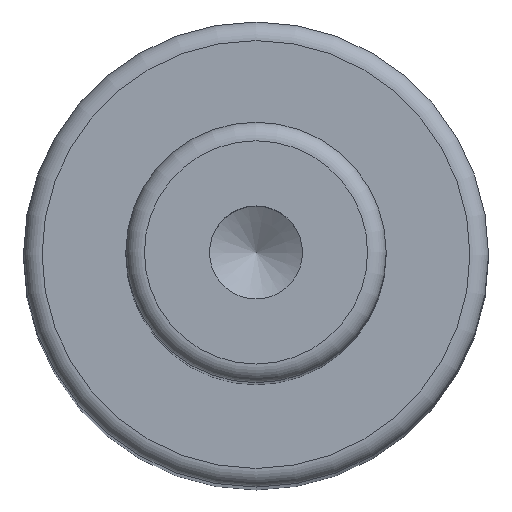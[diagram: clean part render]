
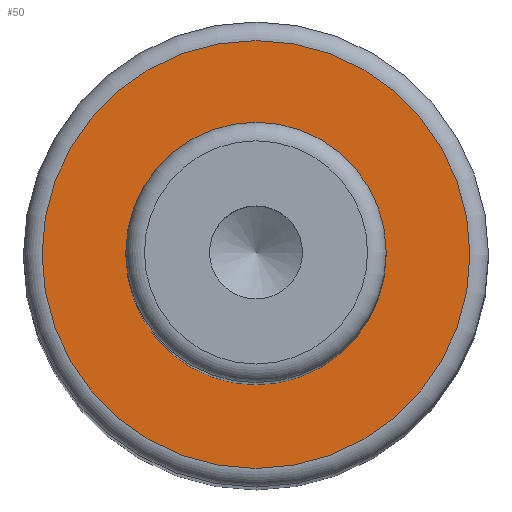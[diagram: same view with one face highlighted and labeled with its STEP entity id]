
A CAD part, top view. The second image highlights one B-rep face of the part: STEP entity #50.
In plain terms, the highlighted planar face has unit normal (0, 0, 1).
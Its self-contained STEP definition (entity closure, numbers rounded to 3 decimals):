
#40=PLANE('',#179);
#50=ADVANCED_FACE('',(#72,#73),#40,.F.);
#72=FACE_BOUND('',#96,.T.);
#73=FACE_BOUND('',#97,.T.);
#96=EDGE_LOOP('',(#118));
#97=EDGE_LOOP('',(#119));
#118=ORIENTED_EDGE('',*,*,#149,.F.);
#119=ORIENTED_EDGE('',*,*,#148,.T.);
#135=VERTEX_POINT('',#256);
#136=VERTEX_POINT('',#259);
#148=EDGE_CURVE('',#135,#135,#159,.T.);
#149=EDGE_CURVE('',#136,#136,#160,.T.);
#159=CIRCLE('',#176,7.);
#160=CIRCLE('',#178,11.5);
#176=AXIS2_PLACEMENT_3D('',#255,#213,#214);
#178=AXIS2_PLACEMENT_3D('',#258,#217,#218);
#179=AXIS2_PLACEMENT_3D('',#260,#219,#220);
#213=DIRECTION('',(0.,0.,-1.));
#214=DIRECTION('',(-1.,0.,0.));
#217=DIRECTION('',(0.,0.,-1.));
#218=DIRECTION('',(-1.,0.,0.));
#219=DIRECTION('',(0.,0.,-1.));
#220=DIRECTION('',(-1.,0.,0.));
#255=CARTESIAN_POINT('',(0.,0.,92.));
#256=CARTESIAN_POINT('',(-7.,0.,92.));
#258=CARTESIAN_POINT('',(0.,0.,92.));
#259=CARTESIAN_POINT('',(-11.5,0.,92.));
#260=CARTESIAN_POINT('',(7.,0.,92.));
